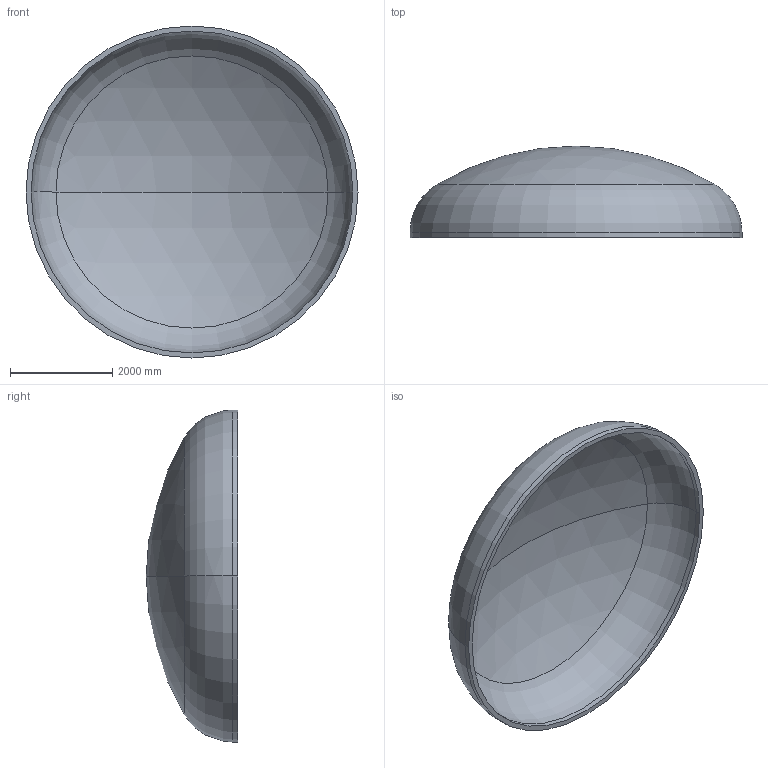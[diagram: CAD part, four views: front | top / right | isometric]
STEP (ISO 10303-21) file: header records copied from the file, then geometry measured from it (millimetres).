
FILE_DESCRIPTION (( 'STEP AP203' ), '1' );
FILE_NAME ('DIN 28013 Korbbogenform_-_Boden DIN 28013 - 6500 x 100 - I - s=98.step', '2016-07-04T10:43:55', ( '' ), ( '' ), 'SwSTEP 2.0', 'SolidWorks 2013', '' );
FILE_SCHEMA (( 'CONFIG_CONTROL_DESIGN' ));
Length unit declared in the file: millimetre
Products named in the file (1): DIN 28013 Korbbogenform_-_Boden DIN 28013 - 6500 x 100 - I - s=98
Bounding box: 6500 x 1791.22 x 6500 mm (x, y, z)
Volume: 4611339016.2 mm3; surface area: 96100061.3 mm2
Topology: 1 solids, 1 shells, 13 faces, 24 edges, 14 vertices
Faces by surface type: torus 4, cylinder 4, sphere 4, plane 1
Entity records: 407 total; most frequent: DIRECTION 72, CARTESIAN_POINT 52, ORIENTED_EDGE 48, AXIS2_PLACEMENT_3D 34, EDGE_CURVE 24, CIRCLE 20, EDGE_LOOP 14, VERTEX_POINT 14
